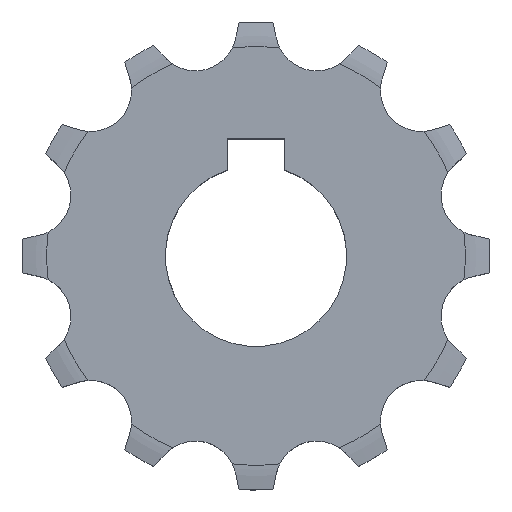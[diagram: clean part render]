
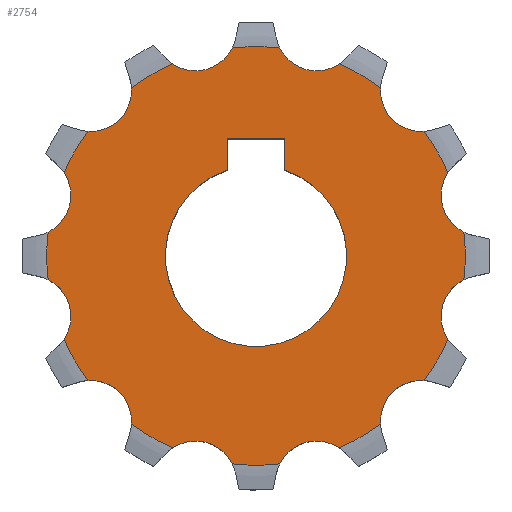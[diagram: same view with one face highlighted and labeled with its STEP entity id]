
A CAD part, top view. The second image highlights one B-rep face of the part: STEP entity #2754.
In plain terms, the highlighted planar face has unit normal (0, 0, 1).
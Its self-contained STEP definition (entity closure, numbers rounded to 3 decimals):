
#33=CARTESIAN_POINT('',(6.35,23.699,3.6));
#34=DIRECTION('',(0.,0.,1.));
#35=DIRECTION('',(-0.897,-0.442,0.));
#36=AXIS2_PLACEMENT_3D('',#33,#34,#35);
#42=CARTESIAN_POINT('',(0.,0.,3.6));
#43=DIRECTION('',(0.,0.,-1.));
#44=DIRECTION('',(0.398,0.917,0.));
#45=AXIS2_PLACEMENT_3D('',#42,#43,#44);
#50=CARTESIAN_POINT('',(17.349,17.349,3.6));
#51=DIRECTION('',(0.,0.,1.));
#52=DIRECTION('',(-0.998,0.065,0.));
#53=AXIS2_PLACEMENT_3D('',#50,#51,#52);
#58=CARTESIAN_POINT('',(0.,0.,3.6));
#59=DIRECTION('',(0.,0.,-1.));
#60=DIRECTION('',(0.804,0.595,0.));
#61=AXIS2_PLACEMENT_3D('',#58,#59,#60);
#66=CARTESIAN_POINT('',(23.699,6.35,3.6));
#67=DIRECTION('',(0.,0.,1.));
#68=DIRECTION('',(-0.831,0.556,0.));
#69=AXIS2_PLACEMENT_3D('',#66,#67,#68);
#74=CARTESIAN_POINT('',(0.,0.,3.6));
#75=DIRECTION('',(0.,0.,-1.));
#76=DIRECTION('',(0.994,0.114,0.));
#77=AXIS2_PLACEMENT_3D('',#74,#75,#76);
#82=CARTESIAN_POINT('',(23.699,-6.35,3.6));
#83=DIRECTION('',(0.,0.,1.));
#84=DIRECTION('',(-0.442,0.897,0.));
#85=AXIS2_PLACEMENT_3D('',#82,#83,#84);
#90=CARTESIAN_POINT('',(0.,0.,3.6));
#91=DIRECTION('',(0.,0.,-1.));
#92=DIRECTION('',(0.917,-0.398,0.));
#93=AXIS2_PLACEMENT_3D('',#90,#91,#92);
#98=CARTESIAN_POINT('',(17.349,-17.349,3.6));
#99=DIRECTION('',(0.,0.,1.));
#100=DIRECTION('',(0.065,0.998,0.));
#101=AXIS2_PLACEMENT_3D('',#98,#99,#100);
#106=CARTESIAN_POINT('',(0.,0.,3.6));
#107=DIRECTION('',(0.,0.,-1.));
#108=DIRECTION('',(0.595,-0.804,0.));
#109=AXIS2_PLACEMENT_3D('',#106,#107,#108);
#114=CARTESIAN_POINT('',(6.35,-23.699,3.6));
#115=DIRECTION('',(0.,0.,1.));
#116=DIRECTION('',(0.556,0.831,0.));
#117=AXIS2_PLACEMENT_3D('',#114,#115,#116);
#122=CARTESIAN_POINT('',(-6.35,-23.699,3.6));
#123=DIRECTION('',(0.,0.,1.));
#124=DIRECTION('',(0.897,0.442,0.));
#125=AXIS2_PLACEMENT_3D('',#122,#123,#124);
#130=CARTESIAN_POINT('',(0.,0.,3.6));
#131=DIRECTION('',(0.,0.,-1.));
#132=DIRECTION('',(-0.398,-0.917,0.));
#133=AXIS2_PLACEMENT_3D('',#130,#131,#132);
#138=CARTESIAN_POINT('',(-17.349,-17.349,3.6));
#139=DIRECTION('',(0.,0.,1.));
#140=DIRECTION('',(0.998,-0.065,0.));
#141=AXIS2_PLACEMENT_3D('',#138,#139,#140);
#146=CARTESIAN_POINT('',(0.,0.,3.6));
#147=DIRECTION('',(0.,0.,-1.));
#148=DIRECTION('',(-0.804,-0.595,0.));
#149=AXIS2_PLACEMENT_3D('',#146,#147,#148);
#154=CARTESIAN_POINT('',(-23.699,-6.35,3.6));
#155=DIRECTION('',(0.,0.,1.));
#156=DIRECTION('',(0.831,-0.556,0.));
#157=AXIS2_PLACEMENT_3D('',#154,#155,#156);
#162=CARTESIAN_POINT('',(0.,0.,3.6));
#163=DIRECTION('',(0.,0.,-1.));
#164=DIRECTION('',(-0.994,-0.114,0.));
#165=AXIS2_PLACEMENT_3D('',#162,#163,#164);
#170=CARTESIAN_POINT('',(-23.699,6.35,3.6));
#171=DIRECTION('',(0.,0.,1.));
#172=DIRECTION('',(0.442,-0.897,0.));
#173=AXIS2_PLACEMENT_3D('',#170,#171,#172);
#178=CARTESIAN_POINT('',(0.,0.,3.6));
#179=DIRECTION('',(0.,0.,-1.));
#180=DIRECTION('',(-0.917,0.398,0.));
#181=AXIS2_PLACEMENT_3D('',#178,#179,#180);
#186=CARTESIAN_POINT('',(-17.349,17.349,3.6));
#187=DIRECTION('',(0.,0.,1.));
#188=DIRECTION('',(-0.065,-0.998,0.));
#189=AXIS2_PLACEMENT_3D('',#186,#187,#188);
#194=CARTESIAN_POINT('',(0.,0.,3.6));
#195=DIRECTION('',(0.,0.,-1.));
#196=DIRECTION('',(-0.595,0.804,0.));
#197=AXIS2_PLACEMENT_3D('',#194,#195,#196);
#202=CARTESIAN_POINT('',(-6.35,23.699,3.6));
#203=DIRECTION('',(0.,0.,1.));
#204=DIRECTION('',(-0.556,-0.831,0.));
#205=AXIS2_PLACEMENT_3D('',#202,#203,#204);
#210=DIRECTION('',(0.,1.,0.));
#211=VECTOR('',#210,3.286);
#212=CARTESIAN_POINT('',(3.,9.014,3.6));
#213=LINE('',#212,#211);
#217=DIRECTION('',(-1.,0.,0.));
#218=VECTOR('',#217,6.);
#219=CARTESIAN_POINT('',(3.,12.3,3.6));
#220=LINE('',#219,#218);
#224=DIRECTION('',(0.,-1.,0.));
#225=VECTOR('',#224,3.286);
#226=CARTESIAN_POINT('',(-3.,12.3,3.6));
#227=LINE('',#226,#225);
#255=CARTESIAN_POINT('',(0.,0.,3.6));
#256=DIRECTION('',(0.,0.,1.));
#257=DIRECTION('',(0.114,0.994,0.));
#258=AXIS2_PLACEMENT_3D('',#255,#256,#257);
#279=CARTESIAN_POINT('',(0.,0.,3.6));
#280=DIRECTION('',(0.,0.,1.));
#281=DIRECTION('',(-0.114,-0.994,0.));
#282=AXIS2_PLACEMENT_3D('',#279,#280,#281);
#1276=CARTESIAN_POINT('',(0.,0.,3.6));
#1277=DIRECTION('',(0.,0.,-1.));
#1278=DIRECTION('',(0.316,0.949,0.));
#1279=AXIS2_PLACEMENT_3D('',#1276,#1277,#1278);
#1396=CARTESIAN_POINT('',(-2.496,21.798,3.6));
#1676=CARTESIAN_POINT('',(-2.496,-21.798,3.6));
#2300=CARTESIAN_POINT('',(2.496,21.798,3.6));
#2399=CARTESIAN_POINT('',(8.738,20.125,3.6));
#2400=CARTESIAN_POINT('',(13.06,17.63,3.6));
#2401=VERTEX_POINT('',#2399);
#2402=VERTEX_POINT('',#2400);
#2403=CARTESIAN_POINT('',(17.63,13.06,3.6));
#2404=CARTESIAN_POINT('',(20.125,8.738,3.6));
#2405=VERTEX_POINT('',#2403);
#2406=VERTEX_POINT('',#2404);
#2407=CARTESIAN_POINT('',(21.798,2.496,3.6));
#2408=CARTESIAN_POINT('',(21.798,-2.496,3.6));
#2409=VERTEX_POINT('',#2407);
#2410=VERTEX_POINT('',#2408);
#2411=CARTESIAN_POINT('',(-8.738,-20.125,3.6));
#2412=CARTESIAN_POINT('',(-13.06,-17.63,3.6));
#2413=VERTEX_POINT('',#2411);
#2414=VERTEX_POINT('',#2412);
#2415=CARTESIAN_POINT('',(-17.63,-13.06,3.6));
#2416=CARTESIAN_POINT('',(-20.125,-8.738,3.6));
#2417=VERTEX_POINT('',#2415);
#2418=VERTEX_POINT('',#2416);
#2419=CARTESIAN_POINT('',(-21.798,-2.496,3.6));
#2420=CARTESIAN_POINT('',(-21.798,2.496,3.6));
#2421=VERTEX_POINT('',#2419);
#2422=VERTEX_POINT('',#2420);
#2448=VERTEX_POINT('',#2300);
#2464=VERTEX_POINT('',#1676);
#2471=CARTESIAN_POINT('',(20.125,-8.738,3.6));
#2472=VERTEX_POINT('',#2471);
#2475=CARTESIAN_POINT('',(17.63,-13.06,3.6));
#2476=CARTESIAN_POINT('',(13.06,-17.63,3.6));
#2477=VERTEX_POINT('',#2475);
#2478=VERTEX_POINT('',#2476);
#2483=CARTESIAN_POINT('',(8.738,-20.125,3.6));
#2484=CARTESIAN_POINT('',(2.496,-21.798,3.6));
#2485=VERTEX_POINT('',#2483);
#2486=VERTEX_POINT('',#2484);
#2515=CARTESIAN_POINT('',(-20.125,8.738,3.6));
#2516=CARTESIAN_POINT('',(-17.63,13.06,3.6));
#2517=VERTEX_POINT('',#2515);
#2518=VERTEX_POINT('',#2516);
#2519=CARTESIAN_POINT('',(-13.06,17.63,3.6));
#2520=CARTESIAN_POINT('',(-8.738,20.125,3.6));
#2521=VERTEX_POINT('',#2519);
#2522=VERTEX_POINT('',#2520);
#2641=CARTESIAN_POINT('',(3.,9.014,3.6));
#2642=VERTEX_POINT('',#2641);
#2643=CARTESIAN_POINT('',(-3.,9.014,3.6));
#2644=VERTEX_POINT('',#2643);
#2645=CARTESIAN_POINT('',(3.,12.3,3.6));
#2646=VERTEX_POINT('',#2645);
#2647=CARTESIAN_POINT('',(-3.,12.3,3.6));
#2648=VERTEX_POINT('',#2647);
#2684=VERTEX_POINT('',#1396);
#2689=CARTESIAN_POINT('',(0.,0.,3.6));
#2690=DIRECTION('',(0.,0.,1.));
#2691=DIRECTION('',(1.,0.,0.));
#2692=AXIS2_PLACEMENT_3D('',#2689,#2690,#2691);
#2693=PLANE('',#2692);
#2695=ORIENTED_EDGE('',*,*,#2694,.F.);
#2697=ORIENTED_EDGE('',*,*,#2696,.T.);
#2699=ORIENTED_EDGE('',*,*,#2698,.T.);
#2701=ORIENTED_EDGE('',*,*,#2700,.T.);
#2703=ORIENTED_EDGE('',*,*,#2702,.T.);
#2705=ORIENTED_EDGE('',*,*,#2704,.T.);
#2707=ORIENTED_EDGE('',*,*,#2706,.T.);
#2709=ORIENTED_EDGE('',*,*,#2708,.T.);
#2711=ORIENTED_EDGE('',*,*,#2710,.T.);
#2713=ORIENTED_EDGE('',*,*,#2712,.T.);
#2715=ORIENTED_EDGE('',*,*,#2714,.T.);
#2717=ORIENTED_EDGE('',*,*,#2716,.T.);
#2719=ORIENTED_EDGE('',*,*,#2718,.F.);
#2721=ORIENTED_EDGE('',*,*,#2720,.T.);
#2723=ORIENTED_EDGE('',*,*,#2722,.T.);
#2725=ORIENTED_EDGE('',*,*,#2724,.T.);
#2727=ORIENTED_EDGE('',*,*,#2726,.T.);
#2729=ORIENTED_EDGE('',*,*,#2728,.T.);
#2731=ORIENTED_EDGE('',*,*,#2730,.T.);
#2733=ORIENTED_EDGE('',*,*,#2732,.T.);
#2735=ORIENTED_EDGE('',*,*,#2734,.T.);
#2737=ORIENTED_EDGE('',*,*,#2736,.T.);
#2739=ORIENTED_EDGE('',*,*,#2738,.T.);
#2741=ORIENTED_EDGE('',*,*,#2740,.T.);
#2742=EDGE_LOOP('',(#2695,#2697,#2699,#2701,#2703,#2705,#2707,#2709,#2711,#2713,
#2715,#2717,#2719,#2721,#2723,#2725,#2727,#2729,#2731,#2733,#2735,#2737,#2739,
#2741));
#2743=FACE_OUTER_BOUND('',#2742,.F.);
#2745=ORIENTED_EDGE('',*,*,#2744,.T.);
#2747=ORIENTED_EDGE('',*,*,#2746,.T.);
#2749=ORIENTED_EDGE('',*,*,#2748,.T.);
#2751=ORIENTED_EDGE('',*,*,#2750,.F.);
#2752=EDGE_LOOP('',(#2745,#2747,#2749,#2751));
#2753=FACE_BOUND('',#2752,.F.);
#2754=ADVANCED_FACE('',(#2743,#2753),#2693,.T.);
#37=CIRCLE('',#36,4.298);
#46=CIRCLE('',#45,21.94);
#54=CIRCLE('',#53,4.298);
#62=CIRCLE('',#61,21.94);
#70=CIRCLE('',#69,4.298);
#78=CIRCLE('',#77,21.94);
#86=CIRCLE('',#85,4.298);
#94=CIRCLE('',#93,21.94);
#102=CIRCLE('',#101,4.298);
#110=CIRCLE('',#109,21.94);
#118=CIRCLE('',#117,4.298);
#126=CIRCLE('',#125,4.298);
#134=CIRCLE('',#133,21.94);
#142=CIRCLE('',#141,4.298);
#150=CIRCLE('',#149,21.94);
#158=CIRCLE('',#157,4.298);
#166=CIRCLE('',#165,21.94);
#174=CIRCLE('',#173,4.298);
#182=CIRCLE('',#181,21.94);
#190=CIRCLE('',#189,4.298);
#198=CIRCLE('',#197,21.94);
#206=CIRCLE('',#205,4.298);
#259=CIRCLE('',#258,21.94);
#283=CIRCLE('',#282,21.94);
#1280=CIRCLE('',#1279,9.5);
#2694=EDGE_CURVE('',#2448,#2684,#259,.T.);
#2696=EDGE_CURVE('',#2448,#2401,#37,.T.);
#2698=EDGE_CURVE('',#2401,#2402,#46,.T.);
#2700=EDGE_CURVE('',#2402,#2405,#54,.T.);
#2702=EDGE_CURVE('',#2405,#2406,#62,.T.);
#2704=EDGE_CURVE('',#2406,#2409,#70,.T.);
#2706=EDGE_CURVE('',#2409,#2410,#78,.T.);
#2708=EDGE_CURVE('',#2410,#2472,#86,.T.);
#2710=EDGE_CURVE('',#2472,#2477,#94,.T.);
#2712=EDGE_CURVE('',#2477,#2478,#102,.T.);
#2714=EDGE_CURVE('',#2478,#2485,#110,.T.);
#2716=EDGE_CURVE('',#2485,#2486,#118,.T.);
#2718=EDGE_CURVE('',#2464,#2486,#283,.T.);
#2720=EDGE_CURVE('',#2464,#2413,#126,.T.);
#2722=EDGE_CURVE('',#2413,#2414,#134,.T.);
#2724=EDGE_CURVE('',#2414,#2417,#142,.T.);
#2726=EDGE_CURVE('',#2417,#2418,#150,.T.);
#2728=EDGE_CURVE('',#2418,#2421,#158,.T.);
#2730=EDGE_CURVE('',#2421,#2422,#166,.T.);
#2732=EDGE_CURVE('',#2422,#2517,#174,.T.);
#2734=EDGE_CURVE('',#2517,#2518,#182,.T.);
#2736=EDGE_CURVE('',#2518,#2521,#190,.T.);
#2738=EDGE_CURVE('',#2521,#2522,#198,.T.);
#2740=EDGE_CURVE('',#2522,#2684,#206,.T.);
#2744=EDGE_CURVE('',#2642,#2646,#213,.T.);
#2746=EDGE_CURVE('',#2646,#2648,#220,.T.);
#2748=EDGE_CURVE('',#2648,#2644,#227,.T.);
#2750=EDGE_CURVE('',#2642,#2644,#1280,.T.);
